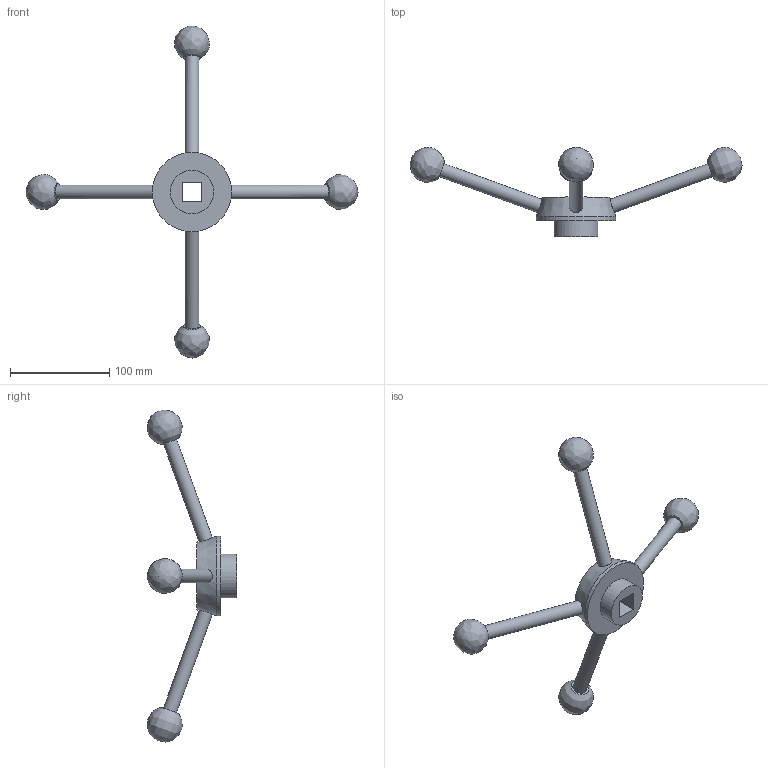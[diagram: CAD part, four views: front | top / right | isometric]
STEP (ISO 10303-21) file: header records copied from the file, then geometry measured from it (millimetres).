
FILE_DESCRIPTION( ( 'STEP AP203' ), '1' );
FILE_NAME( 'C:/Temp/Ganter_Step_05_03_2020/data/2_1/gn_213/gn_213_v/Turret lever GN 213-80-V20.stp', '2020-03-05T11:51:23', ( 'License CC BY-ND 4.0' ), ( 'CADENAS' ), ' ', 'PARTsolutions', ' ' );
FILE_SCHEMA( ( 'CONFIG_CONTROL_DESIGN' ) );
Length unit declared in the file: millimetre
Products named in the file (1): _Turret lever GN 213-80-V20
Bounding box: 334.44 x 89.97 x 334.44 mm (x, y, z)
Volume: 270543.1 mm3; surface area: 52049.1 mm2
Topology: 1 solids, 1 shells, 22 faces, 50 edges, 34 vertices
Faces by surface type: plane 11, cylinder 6, bspline 4, cone 1
Full cylindrical faces by diameter (mm): 14 x4, 44 x1, 80 x1
Entity records: 978 total; most frequent: CARTESIAN_POINT 537, DIRECTION 76, ORIENTED_EDGE 58, EDGE_LOOP 40, AXIS2_PLACEMENT_3D 32, VERTEX_POINT 29, EDGE_CURVE 29, FACE_OUTER_BOUND 28
